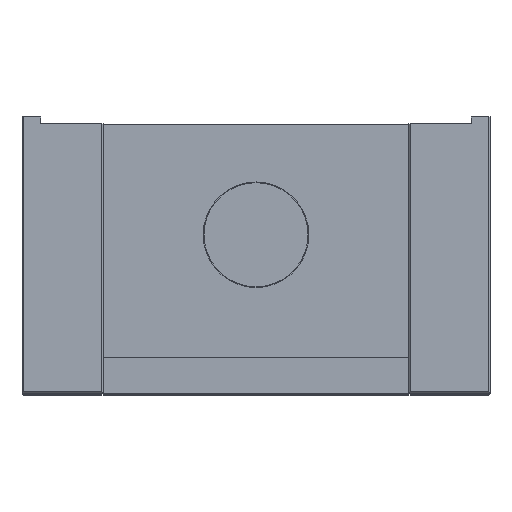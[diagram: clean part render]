
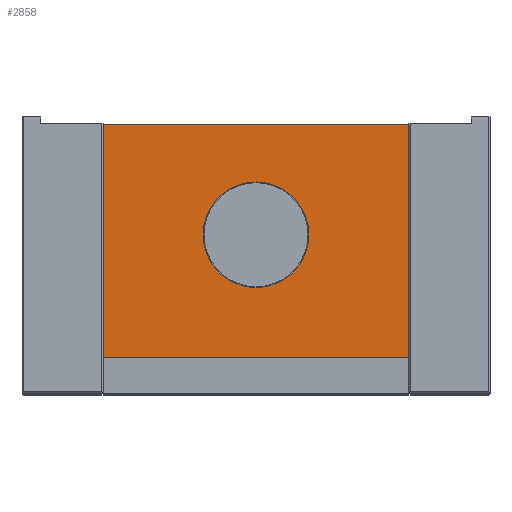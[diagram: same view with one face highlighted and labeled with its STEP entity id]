
A CAD part, top view. The second image highlights one B-rep face of the part: STEP entity #2858.
In plain terms, the highlighted planar face has unit normal (0, 0, 1).
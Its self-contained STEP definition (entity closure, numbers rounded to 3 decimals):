
#2858 = ADVANCED_FACE( '', ( #6785, #6786 ), #6787, .T. );
#6785 = FACE_OUTER_BOUND( '', #12197, .T. );
#6786 = FACE_BOUND( '', #12198, .T. );
#6787 = PLANE( '', #12199 );
#12197 = EDGE_LOOP( '', ( #20968, #20969, #20970, #20971 ) );
#12198 = EDGE_LOOP( '', ( #20972 ) );
#12199 = AXIS2_PLACEMENT_3D( '', #20973, #20974, #20975 );
#20968 = ORIENTED_EDGE( '', *, *, #36169, .F. );
#20969 = ORIENTED_EDGE( '', *, *, #36170, .F. );
#20970 = ORIENTED_EDGE( '', *, *, #36171, .T. );
#20971 = ORIENTED_EDGE( '', *, *, #36172, .T. );
#20972 = ORIENTED_EDGE( '', *, *, #36173, .T. );
#20973 = CARTESIAN_POINT( '', ( -343., -15., 1618. ) );
#20974 = DIRECTION( '', ( 0., 0., 1. ) );
#20975 = DIRECTION( '', ( 1., 0., 0. ) );
#36169 = EDGE_CURVE( '', #43951, #43952, #43953, .T. );
#36170 = EDGE_CURVE( '', #43954, #43951, #43955, .T. );
#36171 = EDGE_CURVE( '', #43954, #43956, #43957, .T. );
#36172 = EDGE_CURVE( '', #43956, #43952, #43958, .T. );
#36173 = EDGE_CURVE( '', #43959, #43959, #43960, .T. );
#43951 = VERTEX_POINT( '', #56507 );
#43952 = VERTEX_POINT( '', #56508 );
#43953 = LINE( '', #56509, #56510 );
#43954 = VERTEX_POINT( '', #56511 );
#43955 = LINE( '', #56512, #56513 );
#43956 = VERTEX_POINT( '', #56514 );
#43957 = LINE( '', #56515, #56516 );
#43958 = LINE( '', #56517, #56518 );
#43959 = VERTEX_POINT( '', #56519 );
#43960 = CIRCLE( '', #56520, 118.469 );
#56507 = CARTESIAN_POINT( '', ( 343., -15., 1618. ) );
#56508 = CARTESIAN_POINT( '', ( 343., -539.683, 1618. ) );
#56509 = CARTESIAN_POINT( '', ( 343., -15., 1618. ) );
#56510 = VECTOR( '', #68595, 1000. );
#56511 = CARTESIAN_POINT( '', ( -343., -15., 1618. ) );
#56512 = CARTESIAN_POINT( '', ( -343., -15., 1618. ) );
#56513 = VECTOR( '', #68596, 1000. );
#56514 = CARTESIAN_POINT( '', ( -343., -539.683, 1618. ) );
#56515 = CARTESIAN_POINT( '', ( -343., -15., 1618. ) );
#56516 = VECTOR( '', #68597, 1000. );
#56517 = CARTESIAN_POINT( '', ( -343., -539.683, 1618. ) );
#56518 = VECTOR( '', #68598, 1000. );
#56519 = CARTESIAN_POINT( '', ( 118.469, -263.1, 1618. ) );
#56520 = AXIS2_PLACEMENT_3D( '', #68599, #68600, #68601 );
#68595 = DIRECTION( '', ( 0., -1., 0. ) );
#68596 = DIRECTION( '', ( 1., 0., 0. ) );
#68597 = DIRECTION( '', ( 0., -1., 0. ) );
#68598 = DIRECTION( '', ( 1., 0., 0. ) );
#68599 = CARTESIAN_POINT( '', ( 0., -263.1, 1618. ) );
#68600 = DIRECTION( '', ( 0., 0., -1. ) );
#68601 = DIRECTION( '', ( 1., 0., 0. ) );
